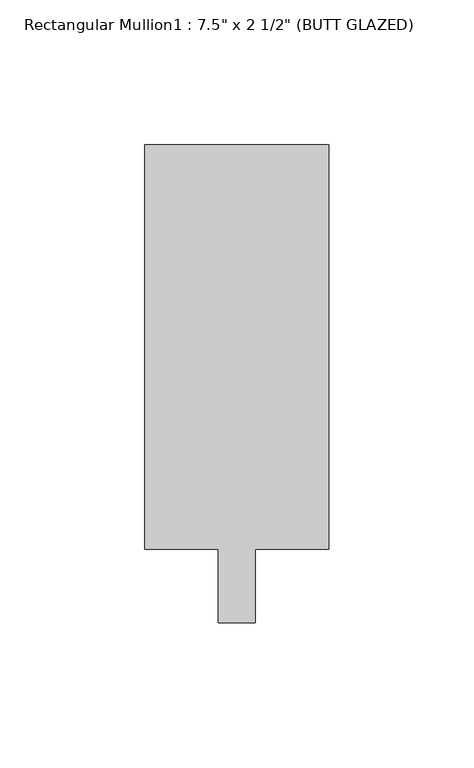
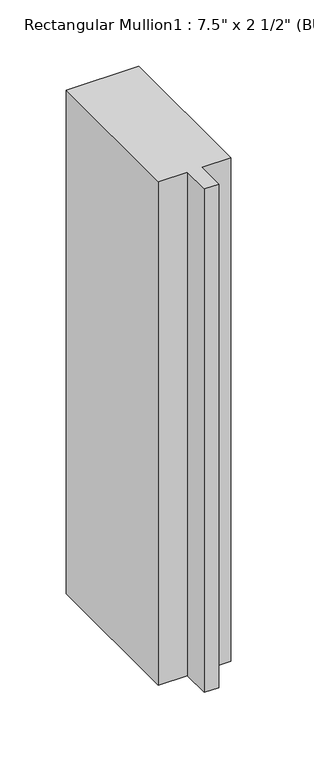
"""IFC4 building model written with IfcOpenShell, lengths in millimetres: member geometry."""

from ifc_helpers import new_model, si_unit, frame, origin, place, context, project, spatial, polyline, outline, extrude, source, transform, mapped, element, save


def member_e937eec9(model_context):
    return source(origin(), model_context, "Body", "SweptSolid", [
        extrude(outline(polyline([(31.75, 165.1), (31.75, 25.4), (6.35, 25.4), (6.35, 0.0), (-6.35, 0.0), (-6.35, 25.4), (-31.75, 25.4), (-31.75, 165.1), (31.75, 165.1)])), frame((0.0, 0.0, -465.2349571), z_axis=(0.0, 0.0, 1.0), x_axis=(1.0, 0.0, 0.0)), (0.0, 0.0, 1.0), 465.2349571),
    ])


if __name__ == "__main__":
    model = new_model("IFC4")
    model_context = context("Model", 3, world=origin())
    ifc_project = project(units=[si_unit("LENGTHUNIT", "METRE", prefix="MILLI")], contexts=[model_context])
    site = spatial("IfcSite", under=ifc_project)
    building = spatial("IfcBuilding", under=site)
    placement = place(None, origin())
    member_shape = member_e937eec9(model_context)
    element("IfcMember", 1, ObjectType="Rectangular Mullion1 : 7.5\" x 2 1/2\" (BUTT GLAZED)", at=placement, inside=building, context=model_context, shape_type="MappedRepresentation", body=[
        mapped(member_shape, transform((0.0, 0.0, 0.0), x_axis=(1.0, 0.0, 0.0), y_axis=(0.0, 1.0, 0.0), z_axis=(0.0, 0.0, 1.0))),
    ])
    save(model, "model.ifc")
